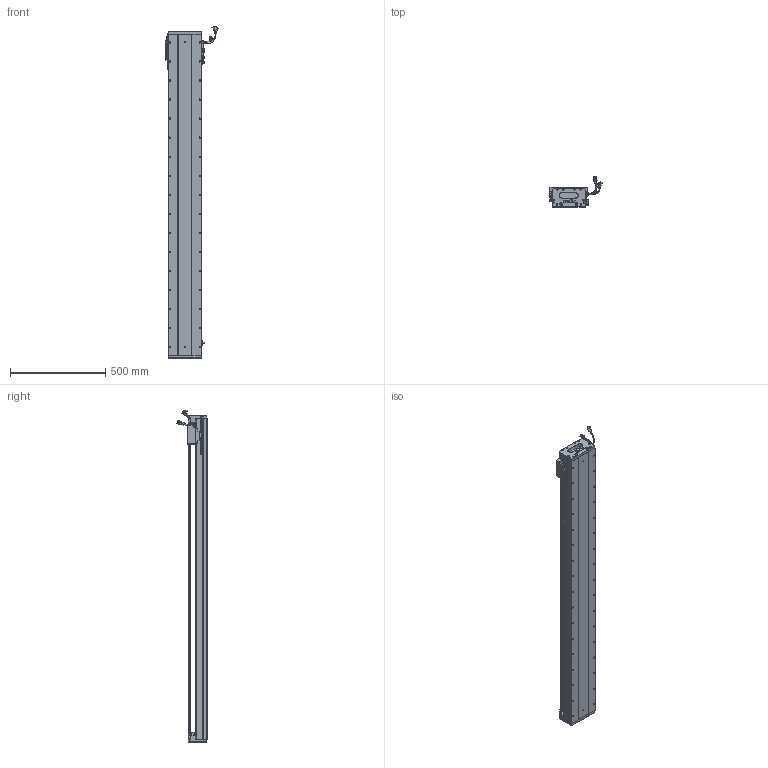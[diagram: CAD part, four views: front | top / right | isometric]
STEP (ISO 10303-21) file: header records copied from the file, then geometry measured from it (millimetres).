
FILE_DESCRIPTION (( 'STEP AP203' ), '1' );
FILE_NAME ('Z1-RY170D-1-L500-B-K.SLDASM_1500.step', '2021-05-17T08:53:15', ( '盈信电脑' ), ( '东莞市道滘镇水果街19号' ), 'SwSTEP 2.0', 'SolidWorks 2016', '' );
FILE_SCHEMA (( 'CONFIG_CONTROL_DESIGN' ));
Length unit declared in the file: millimetre
Products named in the file (36): Z1-RY170-L500詩湍145mm遵_1500; COVER; 140雄赽晤鎢ん堤盄; Z1-RY170臏賑輸(21遴); SCREW-M1.6; SEAL-Part-1; 榋妏寠巭燃_暯_M2_2; Z-170詩湍傷裔啣; HARNESS-Part-2; PBU_SHEET; 140蚥薯蝶輸; SCREW-M1.6-3; Z-RY170詩湍奻揤裔; 覜茼ん672; RY170直线电机感应器672光电感应片; HARNESS; 170-Z-臏賑輸盄裔(21遴); Z-RY170詩湍狟揤裔; SCREW-M1.7; SCREW-M1.6-2; Z1-RY170D-1-L500-B-K.SLDASM_1500; SHIELDPLATE; LABEL-Part-1; LABEL; SCALE-Part-1; SEAL; 080黍杅芛假蚾釱21遴; SCALE; COVER-Part-1; SCALE-Part-2; PSLH080_PSLF2; HARNESS-Part-1; Z1-RY170-L500耀郪菁釱_1500; SCREW-M1.7-1; SCREW-M1.6-1; HOLDER0
Assembly tree (41 placements, depth 4):
  Z1-RY170D-1-L500-B-K.SLDASM_1500
    Z1-RY170-L500耀郪菁釱_1500
    RY170直线电机感应器672光电感应片
    Z1-RY170臏賑輸(21遴)
    覜茼ん672  x3
    PSLH080_PSLF2
      SCALE
        SCALE-Part-1
        SCALE-Part-2
      HARNESS
        HARNESS-Part-1
        HARNESS-Part-2
      LABEL
        LABEL-Part-1
      COVER
        COVER-Part-1
      SEAL
        SEAL-Part-1
      榋妏寠巭燃_暯_M2_2
      SHIELDPLATE
      SCREW-M1.7
      SCREW-M1.7-1
      PBU_SHEET
      SCREW-M1.6
      SCREW-M1.6-1
      SCREW-M1.6-2
      SCREW-M1.6-3
      HOLDER0
    080黍杅芛假蚾釱21遴
    Z1-RY170-L500詩湍145mm遵_1500
    Z-170詩湍傷裔啣  x2
    Z-RY170詩湍奻揤裔  x2
    Z-RY170詩湍狟揤裔  x2
    140蚥薯蝶輸  x2
    170-Z-臏賑輸盄裔(21遴)
    140雄赽晤鎢ん堤盄
Bounding box: 275.33 x 158.11 x 1743.72 mm (x, y, z)
Volume: 8693845.5 mm3; surface area: 2167911.7 mm2
Topology: 36 solids, 36 shells, 3382 faces, 9229 edges, 5789 vertices
Faces by surface type: cylinder 1616, plane 1208, cone 436, torus 69, bspline 53
Entity records: 102829 total; most frequent: CARTESIAN_POINT 27726, ORIENTED_EDGE 15158, DIRECTION 14435, EDGE_CURVE 7579, AXIS2_PLACEMENT_3D 5280, VERTEX_POINT 4907, LINE 3875, VECTOR 3875
